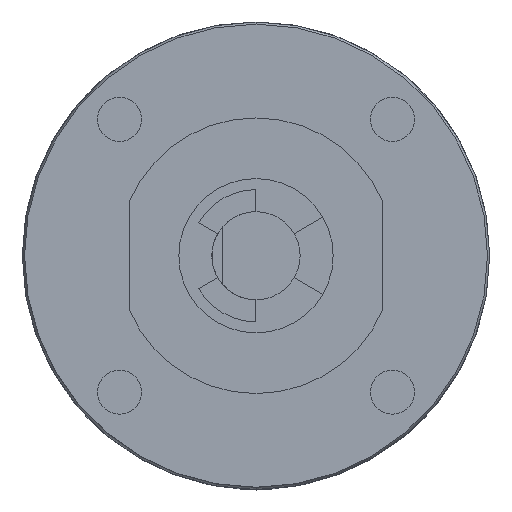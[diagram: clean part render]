
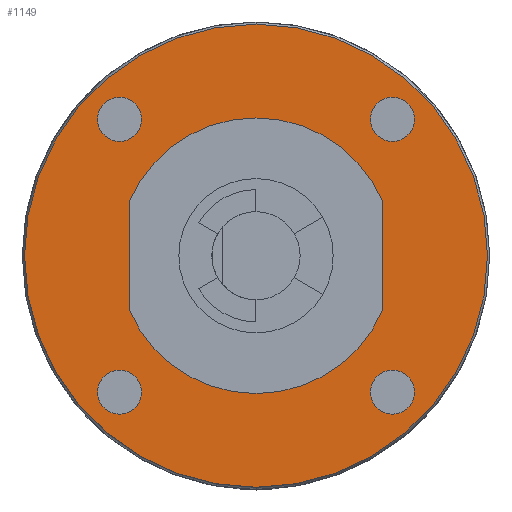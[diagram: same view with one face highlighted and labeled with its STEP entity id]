
A CAD part, front view. The second image highlights one B-rep face of the part: STEP entity #1149.
In plain terms, the highlighted planar face has unit normal (0, -1, 0) as drawn and (0, 1, 0) by its records, which use the part's own axes.
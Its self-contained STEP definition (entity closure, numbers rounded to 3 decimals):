
#75=CARTESIAN_POINT('',(0.,32.5,0.));
#76=DIRECTION('',(0.,1.,0.));
#77=DIRECTION('',(0.,0.,1.));
#78=AXIS2_PLACEMENT_3D('',#75,#76,#77);
#80=CARTESIAN_POINT('',(0.,32.5,0.));
#81=DIRECTION('',(0.,1.,0.));
#82=DIRECTION('',(0.,0.,-1.));
#83=AXIS2_PLACEMENT_3D('',#80,#81,#82);
#85=CARTESIAN_POINT('',(-12.374,32.5,12.374));
#86=DIRECTION('',(0.,-1.,0.));
#87=DIRECTION('',(0.,0.,-1.));
#88=AXIS2_PLACEMENT_3D('',#85,#86,#87);
#90=CARTESIAN_POINT('',(-12.374,32.5,12.374));
#91=DIRECTION('',(0.,-1.,0.));
#92=DIRECTION('',(0.,0.,1.));
#93=AXIS2_PLACEMENT_3D('',#90,#91,#92);
#95=CARTESIAN_POINT('',(-12.374,32.5,-12.374));
#96=DIRECTION('',(0.,-1.,0.));
#97=DIRECTION('',(0.,0.,-1.));
#98=AXIS2_PLACEMENT_3D('',#95,#96,#97);
#100=CARTESIAN_POINT('',(-12.374,32.5,-12.374));
#101=DIRECTION('',(0.,-1.,0.));
#102=DIRECTION('',(0.,0.,1.));
#103=AXIS2_PLACEMENT_3D('',#100,#101,#102);
#105=CARTESIAN_POINT('',(12.374,32.5,-12.374));
#106=DIRECTION('',(0.,-1.,0.));
#107=DIRECTION('',(0.,0.,-1.));
#108=AXIS2_PLACEMENT_3D('',#105,#106,#107);
#110=CARTESIAN_POINT('',(12.374,32.5,-12.374));
#111=DIRECTION('',(0.,-1.,0.));
#112=DIRECTION('',(0.,0.,1.));
#113=AXIS2_PLACEMENT_3D('',#110,#111,#112);
#115=CARTESIAN_POINT('',(12.374,32.5,12.374));
#116=DIRECTION('',(0.,-1.,0.));
#117=DIRECTION('',(0.,0.,-1.));
#118=AXIS2_PLACEMENT_3D('',#115,#116,#117);
#120=CARTESIAN_POINT('',(12.374,32.5,12.374));
#121=DIRECTION('',(0.,-1.,0.));
#122=DIRECTION('',(0.,0.,1.));
#123=AXIS2_PLACEMENT_3D('',#120,#121,#122);
#125=DIRECTION('',(0.,0.,1.));
#126=VECTOR('',#125,9.798);
#127=CARTESIAN_POINT('',(11.5,32.5,-4.899));
#128=LINE('',#127,#126);
#129=CARTESIAN_POINT('',(0.,32.5,0.));
#130=DIRECTION('',(0.,-1.,0.));
#131=DIRECTION('',(0.,0.,-1.));
#132=AXIS2_PLACEMENT_3D('',#129,#130,#131);
#134=CARTESIAN_POINT('',(0.,32.5,0.));
#135=DIRECTION('',(0.,-1.,0.));
#136=DIRECTION('',(-0.92,0.,-0.392));
#137=AXIS2_PLACEMENT_3D('',#134,#135,#136);
#139=DIRECTION('',(0.,0.,-1.));
#140=VECTOR('',#139,9.798);
#141=CARTESIAN_POINT('',(-11.5,32.5,4.899));
#142=LINE('',#141,#140);
#143=CARTESIAN_POINT('',(0.,32.5,0.));
#144=DIRECTION('',(0.,-1.,0.));
#145=DIRECTION('',(0.,0.,1.));
#146=AXIS2_PLACEMENT_3D('',#143,#144,#145);
#148=CARTESIAN_POINT('',(0.,32.5,0.));
#149=DIRECTION('',(0.,-1.,0.));
#150=DIRECTION('',(0.92,0.,0.392));
#151=AXIS2_PLACEMENT_3D('',#148,#149,#150);
#766=CARTESIAN_POINT('',(11.5,32.5,-4.899));
#768=VERTEX_POINT('',#766);
#773=CARTESIAN_POINT('',(-12.374,32.5,10.374));
#775=VERTEX_POINT('',#773);
#789=CARTESIAN_POINT('',(12.374,32.5,10.374));
#791=VERTEX_POINT('',#789);
#797=CARTESIAN_POINT('',(11.5,32.5,4.899));
#798=VERTEX_POINT('',#797);
#817=CARTESIAN_POINT('',(-12.374,32.5,14.374));
#819=VERTEX_POINT('',#817);
#821=CARTESIAN_POINT('',(-12.374,32.5,-14.374));
#822=CARTESIAN_POINT('',(-12.374,32.5,-10.374));
#823=VERTEX_POINT('',#821);
#824=VERTEX_POINT('',#822);
#825=CARTESIAN_POINT('',(0.,32.5,21.));
#827=VERTEX_POINT('',#825);
#869=CARTESIAN_POINT('',(12.374,32.5,-14.374));
#870=VERTEX_POINT('',#869);
#879=CARTESIAN_POINT('',(12.374,32.5,14.374));
#880=VERTEX_POINT('',#879);
#881=CARTESIAN_POINT('',(0.,32.5,-21.));
#883=VERTEX_POINT('',#881);
#909=CARTESIAN_POINT('',(12.374,32.5,-10.374));
#910=VERTEX_POINT('',#909);
#945=CARTESIAN_POINT('',(-11.5,32.5,4.899));
#946=CARTESIAN_POINT('',(-11.5,32.5,-4.899));
#947=VERTEX_POINT('',#945);
#948=VERTEX_POINT('',#946);
#959=CARTESIAN_POINT('',(0.,32.5,-12.5));
#960=VERTEX_POINT('',#959);
#977=CARTESIAN_POINT('',(0.,32.5,12.5));
#978=VERTEX_POINT('',#977);
#1102=CARTESIAN_POINT('',(0.,32.5,0.));
#1103=DIRECTION('',(0.,1.,0.));
#1104=DIRECTION('',(0.,0.,1.));
#1105=AXIS2_PLACEMENT_3D('',#1102,#1103,#1104);
#1106=PLANE('',#1105);
#1107=ORIENTED_EDGE('',*,*,#1082,.F.);
#1108=ORIENTED_EDGE('',*,*,#1095,.F.);
#1109=EDGE_LOOP('',(#1107,#1108));
#1110=FACE_OUTER_BOUND('',#1109,.F.);
#1112=ORIENTED_EDGE('',*,*,#1111,.F.);
#1114=ORIENTED_EDGE('',*,*,#1113,.F.);
#1115=EDGE_LOOP('',(#1112,#1114));
#1116=FACE_BOUND('',#1115,.F.);
#1118=ORIENTED_EDGE('',*,*,#1117,.F.);
#1120=ORIENTED_EDGE('',*,*,#1119,.F.);
#1121=EDGE_LOOP('',(#1118,#1120));
#1122=FACE_BOUND('',#1121,.F.);
#1124=ORIENTED_EDGE('',*,*,#1123,.F.);
#1126=ORIENTED_EDGE('',*,*,#1125,.F.);
#1127=EDGE_LOOP('',(#1124,#1126));
#1128=FACE_BOUND('',#1127,.F.);
#1130=ORIENTED_EDGE('',*,*,#1129,.F.);
#1132=ORIENTED_EDGE('',*,*,#1131,.F.);
#1133=EDGE_LOOP('',(#1130,#1132));
#1134=FACE_BOUND('',#1133,.F.);
#1136=ORIENTED_EDGE('',*,*,#1135,.F.);
#1138=ORIENTED_EDGE('',*,*,#1137,.F.);
#1140=ORIENTED_EDGE('',*,*,#1139,.F.);
#1142=ORIENTED_EDGE('',*,*,#1141,.F.);
#1144=ORIENTED_EDGE('',*,*,#1143,.F.);
#1146=ORIENTED_EDGE('',*,*,#1145,.F.);
#1147=EDGE_LOOP('',(#1136,#1138,#1140,#1142,#1144,#1146));
#1148=FACE_BOUND('',#1147,.F.);
#1149=ADVANCED_FACE('',(#1110,#1116,#1122,#1128,#1134,#1148),#1106,.T.);
#79=CIRCLE('',#78,21.);
#84=CIRCLE('',#83,21.);
#89=CIRCLE('',#88,2.);
#94=CIRCLE('',#93,2.);
#99=CIRCLE('',#98,2.);
#104=CIRCLE('',#103,2.);
#109=CIRCLE('',#108,2.);
#114=CIRCLE('',#113,2.);
#119=CIRCLE('',#118,2.);
#124=CIRCLE('',#123,2.);
#133=CIRCLE('',#132,12.5);
#138=CIRCLE('',#137,12.5);
#147=CIRCLE('',#146,12.5);
#152=CIRCLE('',#151,12.5);
#1082=EDGE_CURVE('',#827,#883,#79,.T.);
#1095=EDGE_CURVE('',#883,#827,#84,.T.);
#1111=EDGE_CURVE('',#775,#819,#89,.T.);
#1113=EDGE_CURVE('',#819,#775,#94,.T.);
#1117=EDGE_CURVE('',#823,#824,#99,.T.);
#1119=EDGE_CURVE('',#824,#823,#104,.T.);
#1123=EDGE_CURVE('',#870,#910,#109,.T.);
#1125=EDGE_CURVE('',#910,#870,#114,.T.);
#1129=EDGE_CURVE('',#791,#880,#119,.T.);
#1131=EDGE_CURVE('',#880,#791,#124,.T.);
#1135=EDGE_CURVE('',#768,#798,#128,.T.);
#1137=EDGE_CURVE('',#960,#768,#133,.T.);
#1139=EDGE_CURVE('',#948,#960,#138,.T.);
#1141=EDGE_CURVE('',#947,#948,#142,.T.);
#1143=EDGE_CURVE('',#978,#947,#147,.T.);
#1145=EDGE_CURVE('',#798,#978,#152,.T.);
